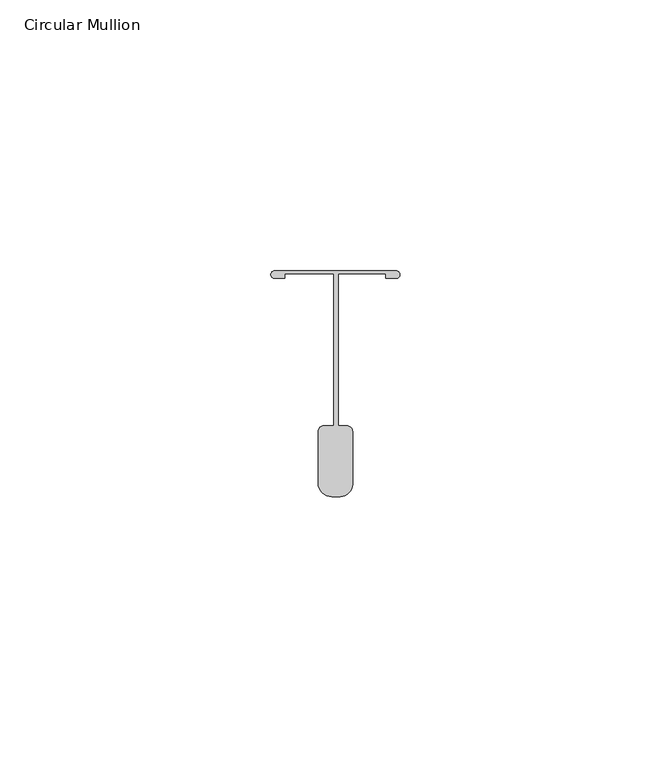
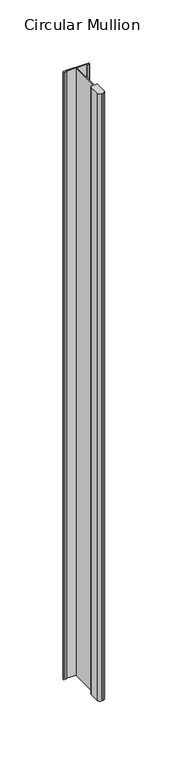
"""IFC4 building model written with IfcOpenShell, lengths in millimetres: member geometry, Circular Mullion : Main Runners."""

from ifc_helpers import new_model, si_unit, point, frame, frame_2d, origin, place, context, project, spatial, polyline, circle_curve, trimmed, segment, composite_curve, outline, extrude, source, transform, mapped, element, save


def circular_mullion_51bf8350(model_context):
    return source(origin(), model_context, "Body", "SweptSolid", [
        extrude(outline(composite_curve([segment(trimmed(circle_curve(frame_2d((2.0974658, -23.0292967)), 1.0775342), [point((2.0974658, -21.9517625))], [point((3.175, -23.0292967))], False, "CARTESIAN"), True, "CONTINUOUS"), segment(polyline([(3.175, -23.0292967), (3.175, -32.7504623)]), True, "CONTINUOUS"), segment(trimmed(circle_curve(frame_2d((0.8836999, -32.7504623)), 2.2913001), [point((3.175, -32.7504623))], [point((0.8836999, -35.0417625))], False, "CARTESIAN"), True, "CONTINUOUS"), segment(polyline([(0.8836999, -35.0417625), (-0.6508994, -35.0417625)]), True, "CONTINUOUS"), segment(trimmed(circle_curve(frame_2d((-0.6508994, -32.5176619)), 2.5241006), [point((-0.6508994, -35.0417625))], [point((-3.175, -32.5176619))], False, "CARTESIAN"), True, "CONTINUOUS"), segment(polyline([(-3.175, -32.5176619), (-3.175, -23.0292967)]), True, "CONTINUOUS"), segment(trimmed(circle_curve(frame_2d((-2.0974658, -23.0292967)), 1.0775342), [point((-3.175, -23.0292967))], [point((-2.0974658, -21.9517625))], False, "CARTESIAN"), True, "CONTINUOUS"), segment(polyline([(-2.0974658, -21.9517625), (-0.3211248, -21.9517625), (-0.3211248, 6.0459958), (-9.318924, 6.0459958), (-9.318924, 5.2459958), (-11.2221291, 5.2459958)]), True, "CONTINUOUS"), segment(trimmed(circle_curve(frame_2d((-11.2221291, 5.9301166)), 0.6841209), [point((-11.2221291, 5.2459958))], [point((-11.90625, 5.9301166))], False, "CARTESIAN"), True, "CONTINUOUS"), segment(trimmed(circle_curve(frame_2d((-11.2221291, 5.9301166)), 0.6841209), [point((-11.90625, 5.9301166))], [point((-11.2221291, 6.6142375))], False, "CARTESIAN"), True, "CONTINUOUS"), segment(polyline([(-11.2221291, 6.6142375), (11.2221291, 6.6142375)]), True, "CONTINUOUS"), segment(trimmed(circle_curve(frame_2d((11.2221291, 5.9301166)), 0.6841209), [point((11.2221291, 6.6142375))], [point((11.90625, 5.9301166))], False, "CARTESIAN"), True, "CONTINUOUS"), segment(trimmed(circle_curve(frame_2d((11.2221291, 5.9301166)), 0.6841209), [point((11.90625, 5.9301166))], [point((11.2221291, 5.2459958))], False, "CARTESIAN"), True, "CONTINUOUS"), segment(polyline([(11.2221291, 5.2459958), (9.318924, 5.2459958), (9.318924, 6.0459958), (0.5117194, 6.0459958), (0.5117194, -21.9517625), (2.0974658, -21.9517625)]), True, "CONTINUOUS")], self_intersect=False)), frame((0.0, 0.0, -588.0937497), z_axis=(0.0, 0.0, 1.0), x_axis=(1.0, 0.0, 0.0)), (0.0, 0.0, 1.0), 588.0937497),
    ])


if __name__ == "__main__":
    model = new_model("IFC4")
    model_context = context("Model", 3, world=origin())
    ifc_project = project(units=[si_unit("LENGTHUNIT", "METRE", prefix="MILLI")], contexts=[model_context])
    site = spatial("IfcSite", under=ifc_project)
    building = spatial("IfcBuilding", under=site)
    placement = place(None, origin())
    circular_mullion_shape = circular_mullion_51bf8350(model_context)
    element("IfcMember", 1, ObjectType="Circular Mullion : Main Runners", at=placement, inside=building, context=model_context, shape_type="MappedRepresentation", body=[
        mapped(circular_mullion_shape, transform((0.0, 0.0, 0.0), x_axis=(1.0, 0.0, 0.0), y_axis=(0.0, 1.0, 0.0), z_axis=(0.0, 0.0, 1.0))),
    ])
    save(model, "model.ifc")
